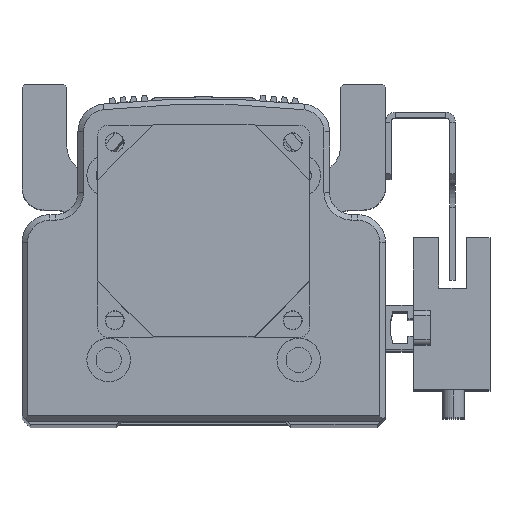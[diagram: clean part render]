
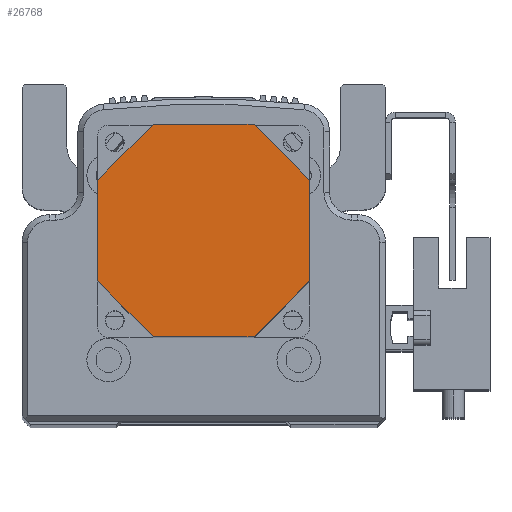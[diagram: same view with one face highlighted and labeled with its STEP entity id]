
A CAD part, top view. The second image highlights one B-rep face of the part: STEP entity #26768.
In plain terms, the highlighted planar face has unit normal (0, 0, 1) as drawn and (0, 0, -1) by its records, which use the part's own axes.
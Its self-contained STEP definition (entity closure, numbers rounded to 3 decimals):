
#4788 = EDGE_CURVE ( 'NONE', #16204, #16761, #30638, .T. ) ;
#4930 = EDGE_CURVE ( 'NONE', #16300, #25407, #30763, .T. ) ;
#4970 = EDGE_CURVE ( 'NONE', #16179, #16204, #30744, .T. ) ;
#7606 = CARTESIAN_POINT ( 'NONE',  ( 19., 9., -84. ) ) ;
#7615 = DIRECTION ( 'NONE',  ( 0., -1., 0. ) ) ;
#7893 = DIRECTION ( 'NONE',  ( -0.707, 0.707, 0. ) ) ;
#7932 = CARTESIAN_POINT ( 'NONE',  ( -9., -19., -84. ) ) ;
#7942 = DIRECTION ( 'NONE',  ( 0.707, -0.707, 0. ) ) ;
#7985 = CARTESIAN_POINT ( 'NONE',  ( 19., 9., -84. ) ) ;
#10079 = CARTESIAN_POINT ( 'NONE',  ( -19., 9., -84. ) ) ;
#10540 = ORIENTED_EDGE ( 'NONE', *, *, #31707, .T. ) ;
#10544 = ORIENTED_EDGE ( 'NONE', *, *, #31838, .T. ) ;
#10553 = ORIENTED_EDGE ( 'NONE', *, *, #31799, .T. ) ;
#10582 = ORIENTED_EDGE ( 'NONE', *, *, #31829, .T. ) ;
#10593 = ORIENTED_EDGE ( 'NONE', *, *, #4930, .T. ) ;
#10597 = ORIENTED_EDGE ( 'NONE', *, *, #4970, .T. ) ;
#10598 = ORIENTED_EDGE ( 'NONE', *, *, #31721, .T. ) ;
#10608 = ORIENTED_EDGE ( 'NONE', *, *, #4788, .T. ) ;
#13039 = VERTEX_POINT ( 'NONE', #10079 ) ;
#15854 = DIRECTION ( 'NONE',  ( 1., 0., 0. ) ) ;
#15874 = CARTESIAN_POINT ( 'NONE',  ( 9., 19., -84. ) ) ;
#15925 = CARTESIAN_POINT ( 'NONE',  ( -9., 19., -84. ) ) ;
#15927 = CARTESIAN_POINT ( 'NONE',  ( 19., -9., -84. ) ) ;
#15929 = DIRECTION ( 'NONE',  ( -0.707, -0.707, 0. ) ) ;
#15954 = DIRECTION ( 'NONE',  ( 0.707, 0.707, 0. ) ) ;
#16179 = VERTEX_POINT ( 'NONE', #24689 ) ;
#16204 = VERTEX_POINT ( 'NONE', #24736 ) ;
#16300 = VERTEX_POINT ( 'NONE', #24724 ) ;
#16334 = VERTEX_POINT ( 'NONE', #24716 ) ;
#16588 = DIRECTION ( 'NONE',  ( 0., 1., 0. ) ) ;
#16635 = CARTESIAN_POINT ( 'NONE',  ( -19., 9., -84. ) ) ;
#16647 = DIRECTION ( 'NONE',  ( -1., 0., 0. ) ) ;
#16651 = CARTESIAN_POINT ( 'NONE',  ( 9., -19., -84. ) ) ;
#16761 = VERTEX_POINT ( 'NONE', #24738 ) ;
#18666 = LINE ( 'NONE', #16651, #18693 ) ;
#18684 = LINE ( 'NONE', #16635, #18696 ) ;
#18693 = VECTOR ( 'NONE', #16647, 1000. ) ;
#18696 = VECTOR ( 'NONE', #16588, 1000. ) ;
#18731 = VECTOR ( 'NONE', #15854, 1000. ) ;
#18739 = LINE ( 'NONE', #15874, #18731 ) ;
#18789 = LINE ( 'NONE', #15925, #18812 ) ;
#18794 = VECTOR ( 'NONE', #15929, 1000. ) ;
#18812 = VECTOR ( 'NONE', #15954, 1000. ) ;
#18814 = LINE ( 'NONE', #15927, #18794 ) ;
#20128 = CARTESIAN_POINT ( 'NONE',  ( 0., 0., -84. ) ) ;
#20134 = PLANE ( 'NONE',  #27274 ) ;
#20135 = DIRECTION ( 'NONE',  ( 0., 0., 1. ) ) ;
#20146 = DIRECTION ( 'NONE',  ( 1., 0., 0. ) ) ;
#24689 = CARTESIAN_POINT ( 'NONE',  ( 9., 19., -84. ) ) ;
#24716 = CARTESIAN_POINT ( 'NONE',  ( -9., 19., -84. ) ) ;
#24724 = CARTESIAN_POINT ( 'NONE',  ( -9., -19., -84. ) ) ;
#24729 = CARTESIAN_POINT ( 'NONE',  ( -19., -9., -84. ) ) ;
#24736 = CARTESIAN_POINT ( 'NONE',  ( 19., 9., -84. ) ) ;
#24738 = CARTESIAN_POINT ( 'NONE',  ( 19., -9., -84. ) ) ;
#24791 = CARTESIAN_POINT ( 'NONE',  ( 9., -19., -84. ) ) ;
#25407 = VERTEX_POINT ( 'NONE', #24729 ) ;
#25425 = VERTEX_POINT ( 'NONE', #24791 ) ;
#26050 = EDGE_LOOP ( 'NONE', ( #10593, #10540, #10582, #10553, #10597, #10608, #10544, #10598 ) ) ;
#26768 = ADVANCED_FACE ( 'NONE', ( #29726 ), #20134, .F. ) ;
#27274 = AXIS2_PLACEMENT_3D ( 'NONE', #20128, #20135, #20146 ) ;
#29726 = FACE_OUTER_BOUND ( 'NONE', #26050, .T. ) ;
#30592 = VECTOR ( 'NONE', #7615, 1000. ) ;
#30638 = LINE ( 'NONE', #7606, #30592 ) ;
#30718 = VECTOR ( 'NONE', #7893, 1000. ) ;
#30744 = LINE ( 'NONE', #7985, #30786 ) ;
#30763 = LINE ( 'NONE', #7932, #30718 ) ;
#30786 = VECTOR ( 'NONE', #7942, 1000. ) ;
#31707 = EDGE_CURVE ( 'NONE', #25407, #13039, #18684, .T. ) ;
#31721 = EDGE_CURVE ( 'NONE', #25425, #16300, #18666, .T. ) ;
#31799 = EDGE_CURVE ( 'NONE', #16334, #16179, #18739, .T. ) ;
#31829 = EDGE_CURVE ( 'NONE', #13039, #16334, #18789, .T. ) ;
#31838 = EDGE_CURVE ( 'NONE', #16761, #25425, #18814, .T. ) ;
